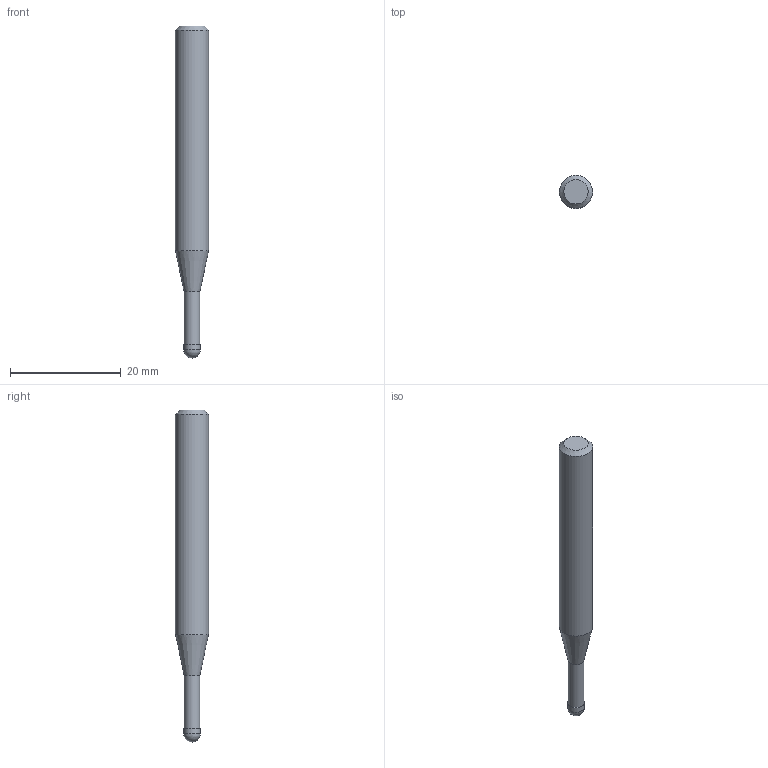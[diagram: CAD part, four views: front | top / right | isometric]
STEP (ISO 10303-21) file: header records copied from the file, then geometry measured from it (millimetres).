
FILE_DESCRIPTION((''),'2;1');
FILE_NAME('C:\Users\nsx150\AppData\Local\Temp\Mastercam 2021\ARV7HD45SN\TEMP.step','2023-06-13T16:38:23',(''),(''),'STEP Write','Mastercam 2021 ... CNC Software, Inc.','');
FILE_SCHEMA(('AUTOMOTIVE_DESIGN'));
Length unit declared in the file: millimetre
Products named in the file (1): None
Bounding box: 6 x 6 x 60 mm (x, y, z)
Volume: 1335.7 mm3; surface area: 1011.1 mm2
Topology: 2 solids, 2 shells, 9 faces, 14 edges, 8 vertices
Faces by surface type: plane 3, cylinder 3, cone 2, sphere 1
Full cylindrical faces by diameter (mm): 2.85 x1, 3 x1, 6 x1
Entity records: 211 total; most frequent: DIRECTION 36, CARTESIAN_POINT 25, AXIS2_PLACEMENT_3D 18, ORIENTED_EDGE 14, EDGE_LOOP 14, STYLED_ITEM 12, ADVANCED_FACE 9, FACE_BOUND 8
